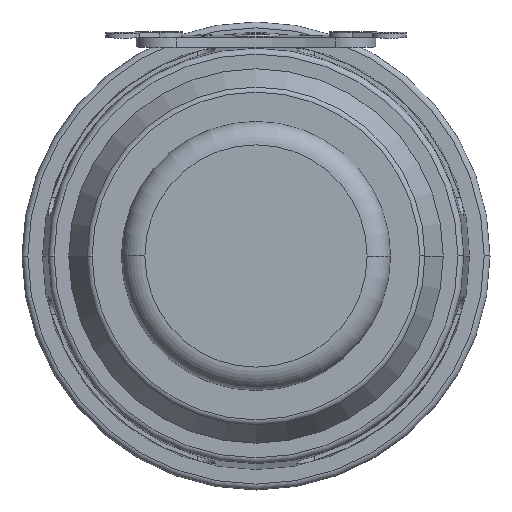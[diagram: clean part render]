
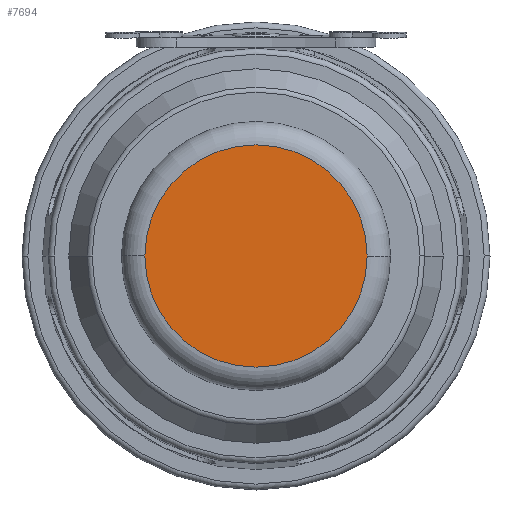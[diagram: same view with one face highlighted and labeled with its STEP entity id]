
A CAD part, front view. The second image highlights one B-rep face of the part: STEP entity #7694.
In plain terms, the highlighted planar face has unit normal (0, -1, 0).
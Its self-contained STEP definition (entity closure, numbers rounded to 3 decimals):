
#7423=CARTESIAN_POINT('',(0.,-6.4,0.));
#7424=DIRECTION('',(0.,-1.,0.));
#7425=DIRECTION('',(-1.,0.,0.));
#7426=AXIS2_PLACEMENT_3D('',#7423,#7424,#7425);
#7431=CARTESIAN_POINT('',(0.,-6.4,0.));
#7432=DIRECTION('',(0.,-1.,0.));
#7433=DIRECTION('',(1.,0.,0.));
#7434=AXIS2_PLACEMENT_3D('',#7431,#7432,#7433);
#7467=CARTESIAN_POINT('',(-9.5,-6.4,0.));
#7468=CARTESIAN_POINT('',(9.5,-6.4,0.));
#7469=VERTEX_POINT('',#7467);
#7470=VERTEX_POINT('',#7468);
#7684=CARTESIAN_POINT('',(0.,-6.4,0.));
#7685=DIRECTION('',(0.,-1.,0.));
#7686=DIRECTION('',(-1.,0.,0.));
#7687=AXIS2_PLACEMENT_3D('',#7684,#7685,#7686);
#7688=PLANE('',#7687);
#7690=ORIENTED_EDGE('',*,*,#7689,.F.);
#7691=ORIENTED_EDGE('',*,*,#7667,.F.);
#7692=EDGE_LOOP('',(#7690,#7691));
#7693=FACE_OUTER_BOUND('',#7692,.F.);
#7694=ADVANCED_FACE('',(#7693),#7688,.T.);
#7427=CIRCLE('',#7426,9.5);
#7435=CIRCLE('',#7434,9.5);
#7667=EDGE_CURVE('',#7470,#7469,#7435,.T.);
#7689=EDGE_CURVE('',#7469,#7470,#7427,.T.);
